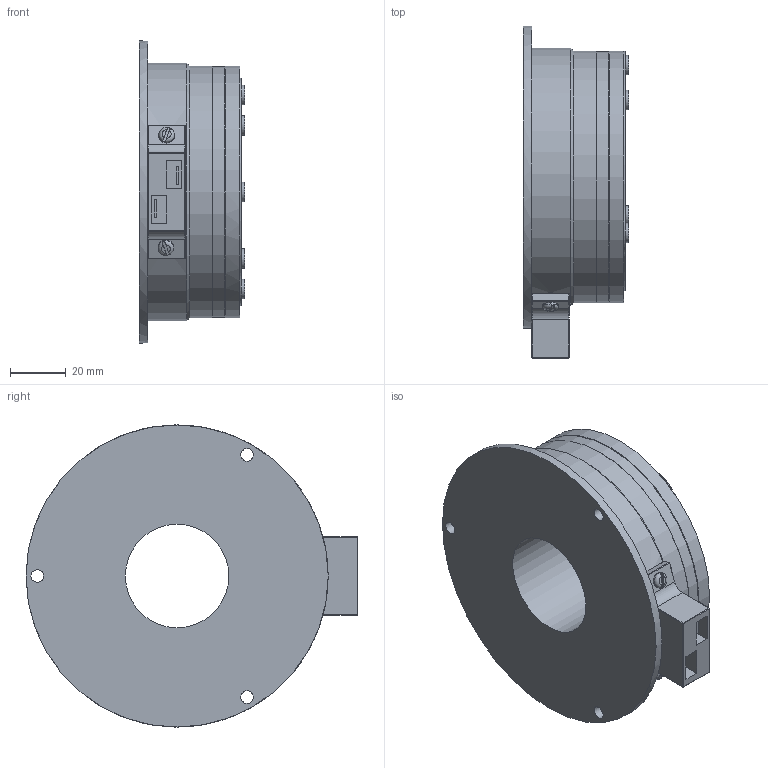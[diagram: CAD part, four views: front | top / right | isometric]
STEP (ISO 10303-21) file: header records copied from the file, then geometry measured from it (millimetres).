
FILE_DESCRIPTION(/* description */ (''),/* implementation_level */ '2;1');
FILE_NAME(/* name */ 'X:\INVENTOR\DISEGNI\08_Freni_Friz_Elettmag_Monodisco\08_28 EMFL_DF\EMFL_DF STEP\08_28_090_11 EMFL090_DF-B_S@STEP.stp',/* time_stamp */ '2018-04-23T15:55:04+02:00',/* author */ ('stefano'),/* organization */ (''),/* preprocessor_version */ 'ST-DEVELOPER v17',/* originating_system */ 'Autodesk Inventor 2018',/* authorisation */ '');
FILE_SCHEMA (('AUTOMOTIVE_DESIGN { 1 0 10303 214 3 1 1 }','INTEGRATED_CNC_SCHEMA'));
Length unit declared in the file: millimetre
Products named in the file (1): 08_28_090_11 EMFL090_DF-B - Spina_Substitute_1
Bounding box: 37.7 x 118.65 x 108 mm (x, y, z)
Volume: 197769.4 mm3; surface area: 56164.7 mm2
Topology: 2 solids, 2 shells, 367 faces, 1006 edges, 633 vertices
Faces by surface type: cylinder 195, plane 102, torus 26, sphere 24, cone 20
Full cylindrical faces by diameter (mm): 1.5 x6, 3 x2, 4.5 x3, 5.1 x9, 5.6 x2, 6 x1, 7 x6, 37 x2, 42 x1, 54 x1, 80 x1, 89.8 x1, 90 x2, 108 x1
Entity records: 12436 total; most frequent: DIRECTION 2311, CARTESIAN_POINT 2176, ORIENTED_EDGE 1966, EDGE_CURVE 983, AXIS2_PLACEMENT_3D 977, VERTEX_POINT 633, CIRCLE 609, EDGE_LOOP 440
